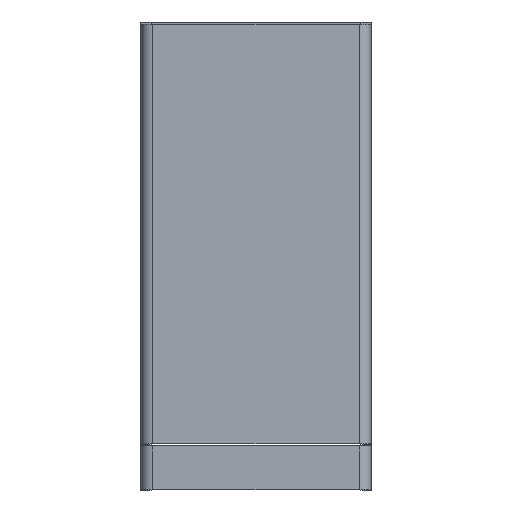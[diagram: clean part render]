
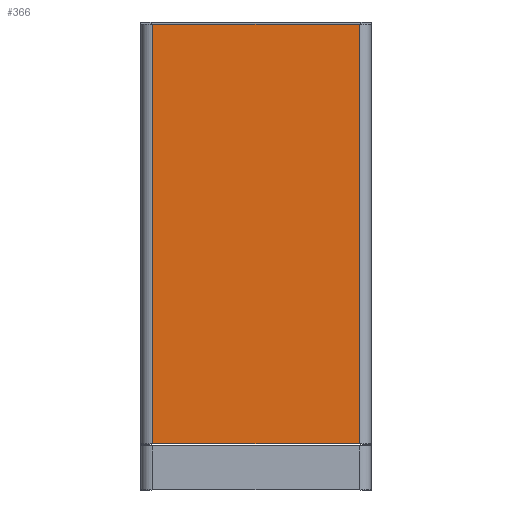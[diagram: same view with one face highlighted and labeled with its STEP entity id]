
A CAD part, top view. The second image highlights one B-rep face of the part: STEP entity #366.
In plain terms, the highlighted planar face has unit normal (0, 0, 1).
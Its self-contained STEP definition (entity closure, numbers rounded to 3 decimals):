
#248 = VERTEX_POINT('',#249);
#249 = CARTESIAN_POINT('',(-176.5,-358.75,232.));
#267 = VERTEX_POINT('',#268);
#268 = CARTESIAN_POINT('',(176.5,-358.75,232.));
#275 = EDGE_CURVE('',#267,#248,#276,.T.);
#276 = LINE('',#277,#278);
#277 = CARTESIAN_POINT('',(176.5,-358.75,232.));
#278 = VECTOR('',#279,1.);
#279 = DIRECTION('',(-1.,0.,0.));
#290 = EDGE_CURVE('',#248,#291,#293,.T.);
#291 = VERTEX_POINT('',#292);
#292 = CARTESIAN_POINT('',(-176.5,358.75,232.));
#293 = LINE('',#294,#295);
#294 = CARTESIAN_POINT('',(-176.5,-358.75,232.));
#295 = VECTOR('',#296,1.);
#296 = DIRECTION('',(0.,1.,0.));
#348 = VERTEX_POINT('',#349);
#349 = CARTESIAN_POINT('',(176.5,358.75,232.));
#356 = EDGE_CURVE('',#348,#267,#357,.T.);
#357 = LINE('',#358,#359);
#358 = CARTESIAN_POINT('',(176.5,-358.75,232.));
#359 = VECTOR('',#360,1.);
#360 = DIRECTION('',(0.,-1.,0.));
#366 = ADVANCED_FACE('',(#367),#378,.T.);
#367 = FACE_BOUND('',#368,.T.);
#368 = EDGE_LOOP('',(#369,#370,#371,#377));
#369 = ORIENTED_EDGE('',*,*,#275,.F.);
#370 = ORIENTED_EDGE('',*,*,#356,.F.);
#371 = ORIENTED_EDGE('',*,*,#372,.F.);
#372 = EDGE_CURVE('',#291,#348,#373,.T.);
#373 = LINE('',#374,#375);
#374 = CARTESIAN_POINT('',(-176.5,358.75,232.));
#375 = VECTOR('',#376,1.);
#376 = DIRECTION('',(1.,0.,0.));
#377 = ORIENTED_EDGE('',*,*,#290,.F.);
#378 = PLANE('',#379);
#379 = AXIS2_PLACEMENT_3D('',#380,#381,#382);
#380 = CARTESIAN_POINT('',(176.5,-358.75,232.));
#381 = DIRECTION('',(0.,0.,1.));
#382 = DIRECTION('',(0.,1.,0.));
